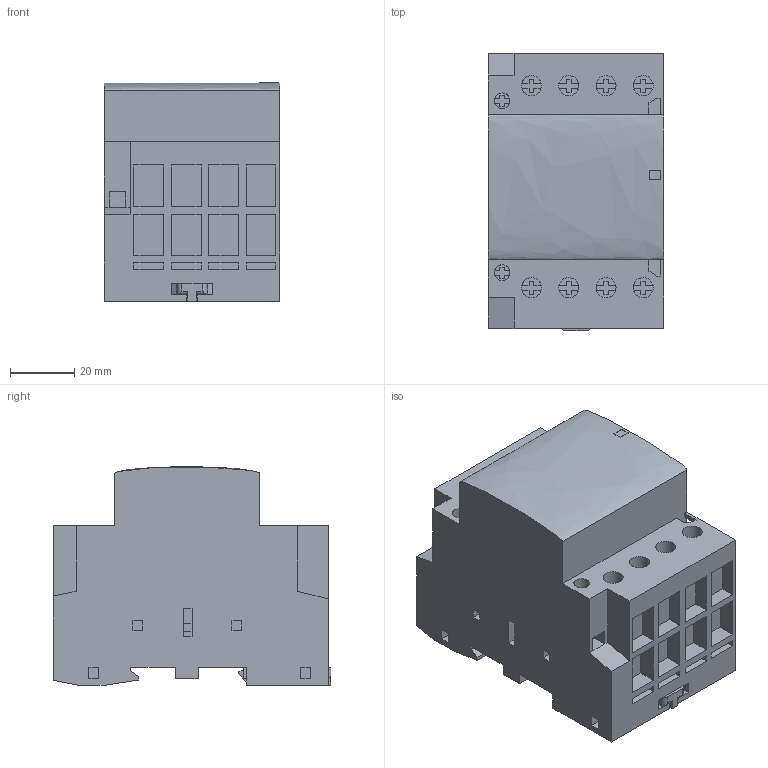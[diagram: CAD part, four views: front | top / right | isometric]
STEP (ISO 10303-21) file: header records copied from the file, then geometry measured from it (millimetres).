
FILE_DESCRIPTION (( 'STEP AP214' ), '1' );
FILE_NAME ('Magneetschakelaar Groot.STEP', '2025-07-29T12:30:24', ( '' ), ( '' ), 'SwSTEP 2.0', 'SolidWorks 2025', '' );
FILE_SCHEMA (( 'AUTOMOTIVE_DESIGN' ));
Length unit declared in the file: millimetre
Products named in the file (3): Part5 (MAGNEETSCHAKELAAR bch8-63 4NO; Lipje algemeen 2; Magneetschakelaar Groot
Assembly tree (2 placements, depth 2):
  Magneetschakelaar Groot
    Part5 (MAGNEETSCHAKELAAR bch8-63 4NO
    Lipje algemeen 2
Bounding box: 54.45 x 86.1 x 67.73 mm (x, y, z)
Volume: 246638.2 mm3; surface area: 35586.9 mm2
Topology: 2 solids, 2 shells, 533 faces, 1379 edges, 892 vertices
Faces by surface type: plane 490, cylinder 41, bspline 2
Entity records: 16043 total; most frequent: CARTESIAN_POINT 2863, ORIENTED_EDGE 2758, DIRECTION 2563, EDGE_CURVE 1379, VECTOR 1251, LINE 1251, VERTEX_POINT 892, AXIS2_PLACEMENT_3D 656
